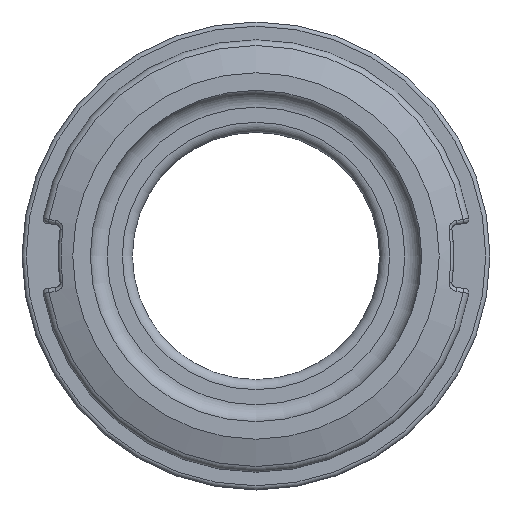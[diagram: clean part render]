
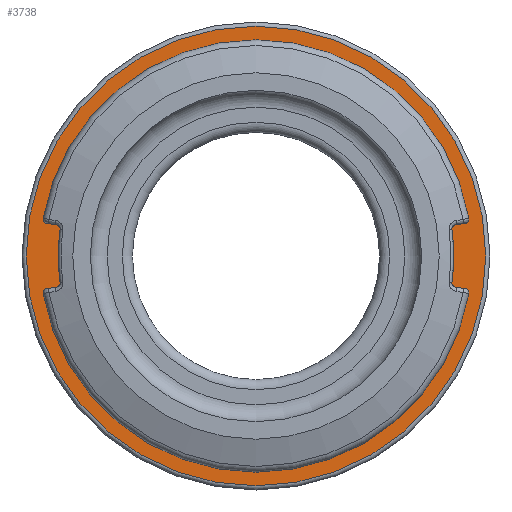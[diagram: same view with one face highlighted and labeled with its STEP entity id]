
A CAD part, front view. The second image highlights one B-rep face of the part: STEP entity #3738.
In plain terms, the highlighted planar face has unit normal (0, -1, 0).
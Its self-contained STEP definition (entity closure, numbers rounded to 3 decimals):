
#2 = DIRECTION ( 'NONE',  ( 0., 0., -1. ) ) ;
#258 = CARTESIAN_POINT ( 'NONE',  ( 173.502, 540.882, 0. ) ) ;
#492 = DIRECTION ( 'NONE',  ( 0., -1., 0. ) ) ;
#546 = VERTEX_POINT ( 'NONE', #2670 ) ;
#661 = CIRCLE ( 'NONE', #871, 27.29 ) ;
#811 = EDGE_LOOP ( 'NONE', ( #2899 ) ) ;
#866 = AXIS2_PLACEMENT_3D ( 'NONE', #1714, #2055, #2 ) ;
#871 = AXIS2_PLACEMENT_3D ( 'NONE', #258, #492, #3836 ) ;
#1013 = EDGE_CURVE ( 'NONE', #1734, #1734, #2552, .T. ) ;
#1448 = EDGE_CURVE ( 'NONE', #546, #546, #661, .T. ) ;
#1497 = DIRECTION ( 'NONE',  ( 0., -1., 0. ) ) ;
#1714 = CARTESIAN_POINT ( 'NONE',  ( 173.502, 540.882, 0. ) ) ;
#1734 = VERTEX_POINT ( 'NONE', #3244 ) ;
#1807 = AXIS2_PLACEMENT_3D ( 'NONE', #2998, #1497, #2141 ) ;
#2055 = DIRECTION ( 'NONE',  ( 0., -1., 0. ) ) ;
#2141 = DIRECTION ( 'NONE',  ( 0., 0., -1. ) ) ;
#2416 = FACE_OUTER_BOUND ( 'NONE', #3748, .T. ) ;
#2552 = CIRCLE ( 'NONE', #866, 23.178 ) ;
#2670 = CARTESIAN_POINT ( 'NONE',  ( 173.502, 540.882, -27.29 ) ) ;
#2899 = ORIENTED_EDGE ( 'NONE', *, *, #1013, .F. ) ;
#2925 = ORIENTED_EDGE ( 'NONE', *, *, #1448, .T. ) ;
#2998 = CARTESIAN_POINT ( 'NONE',  ( 173.502, 540.882, 0. ) ) ;
#3018 = PLANE ( 'NONE',  #1807 ) ;
#3244 = CARTESIAN_POINT ( 'NONE',  ( 173.502, 540.882, -23.178 ) ) ;
#3601 = FACE_BOUND ( 'NONE', #811, .T. ) ;
#3738 = ADVANCED_FACE ( 'NONE', ( #2416, #3601 ), #3018, .T. ) ;
#3748 = EDGE_LOOP ( 'NONE', ( #2925 ) ) ;
#3836 = DIRECTION ( 'NONE',  ( 0., 0., -1. ) ) ;
